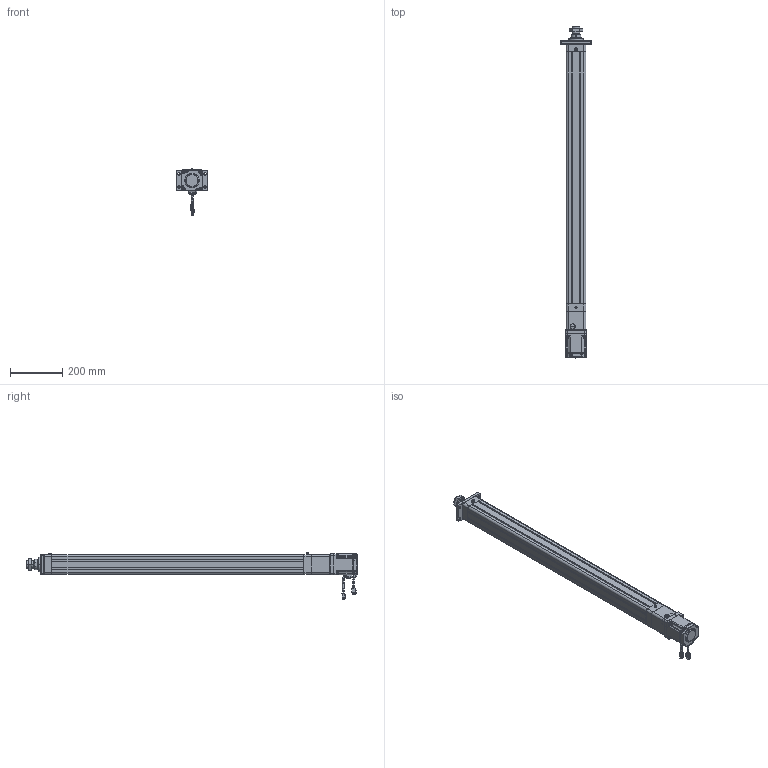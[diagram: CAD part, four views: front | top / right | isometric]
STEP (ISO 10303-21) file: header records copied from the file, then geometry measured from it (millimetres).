
FILE_DESCRIPTION((''),'2;1');
FILE_NAME('HE63-D-100-X1_ASM','2020-04-15T',('ASUS20200'),(''),'CREO PARAMETRIC BY PTC INC, 2014190','CREO PARAMETRIC BY PTC INC, 2014190','');
FILE_SCHEMA(('CONFIG_CONTROL_DESIGN'));
Length unit declared in the file: millimetre
Products named in the file (28): HE63-D-P-001-X1; HE63-D-P-002-X1; HE63-D-P-003-X1; LGLM-M8-22; HE63-D-009-X1; HE63-D-010-X1; M6X16; _MHMF082L1A2; _CABLE_MOTOR_BOTTOM_05; _CABLE_MOTOR_TOP_05; _MOTOR_CONNECTOR_2; _CABLE_BRAKE_BOTTOM_05; _CABLE_BRAKE_TOP_05; _MHMF_CONNECTOR_9_PIN_A6; MHMF082L1A2M2_1_ASM; SLM-01; YZ-M6X1; SKT-16; TD-6; JDB405030; JX6X6X25; HE63-D-P-005-X1; HE63-D-P-004-X1; HE63-D-P-008-X1; M6X25; F-SE63FA; M8X16; HE63-D-100-X1_ASM
Assembly tree (46 placements, depth 3):
  HE63-D-100-X1_ASM
    HE63-D-P-001-X1
    HE63-D-P-002-X1
    HE63-D-P-003-X1
    LGLM-M8-22  x8
    HE63-D-009-X1
    HE63-D-010-X1
    M6X16  x4
    MHMF082L1A2M2_1_ASM
      _MHMF082L1A2
      _CABLE_MOTOR_BOTTOM_05
      _CABLE_MOTOR_TOP_05
      _MOTOR_CONNECTOR_2
      _CABLE_BRAKE_BOTTOM_05
      _CABLE_BRAKE_TOP_05
      _MHMF_CONNECTOR_9_PIN_A6
    SLM-01
    YZ-M6X1
    SKT-16
    TD-6  x4
    JDB405030
    JX6X6X25
    HE63-D-P-005-X1
    HE63-D-P-004-X1
    HE63-D-P-008-X1
    M6X25  x4
    F-SE63FA
    M8X16  x4
Bounding box: 118 x 1266.9 x 179.15 mm (x, y, z)
Volume: 3257339.1 mm3; surface area: 973079 mm2
Topology: 45 solids, 73 shells, 2622 faces, 6405 edges, 4014 vertices
Faces by surface type: plane 1082, cylinder 816, cone 535, torus 142, sphere 44, bspline 3
Entity records: 65569 total; most frequent: CARTESIAN_POINT 12275, DIRECTION 11787, ORIENTED_EDGE 10454, EDGE_CURVE 5277, AXIS2_PLACEMENT_3D 4449, VERTEX_POINT 3335, VECTOR 2889, LINE 2889
